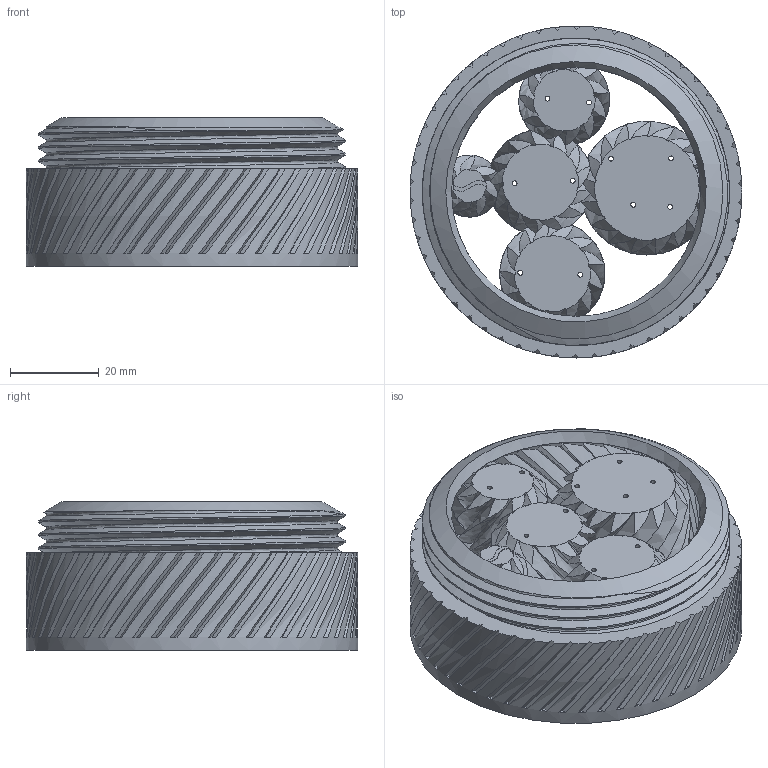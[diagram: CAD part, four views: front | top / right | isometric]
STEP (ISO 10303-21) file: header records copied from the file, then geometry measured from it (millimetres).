
FILE_DESCRIPTION(/* description */ ('STEP AP242','CAx-IF Rec.Pracs.---Representation and Presentation of Product Manufacturing Information (PMI)---4.0---2014-10-13','CAx-IF Rec.Pracs.---3D Tessellated Geometry---0.4---2014-09-14','2;1'),/* implementation_level */ '2;1');
FILE_NAME(/* name */ '646bafce1bedcf7255a49eb0',/* time_stamp */ '2023-05-22T18:09:19Z',/* author */ (''),/* organization */ (''),/* preprocessor_version */ 'ST-DEVELOPER v19.4',/* originating_system */ ' ',/* authorisation */ ' ');
FILE_SCHEMA (('AP242_MANAGED_MODEL_BASED_3D_ENGINEERING_MIM_LF { 1 0 10303 442 1 1 4 }'));
Length unit declared in the file: metre
Products named in the file (6): id2; id5; id8; id11; id14; id17
Bounding box: 74.9 x 74.9 x 33.58 mm (x, y, z)
Volume: 88777.6 mm3; surface area: 48919.7 mm2
Topology: 6 solids, 6 shells, 911 faces, 2436 edges, 1541 vertices
Faces by surface type: bspline 627, cone 141, plane 74, cylinder 69
Full cylindrical faces by diameter (mm): 1.1 x10, 1.8 x10, 2.85 x4, 74.9 x1
Entity records: 150699 total; most frequent: CARTESIAN_POINT 134309, ORIENTED_EDGE 4752, EDGE_CURVE 2376, DIRECTION 1578, VERTEX_POINT 1528, B_SPLINE_CURVE_WITH_KNOTS 1458, EDGE_LOOP 976, FACE_BOUND 976
